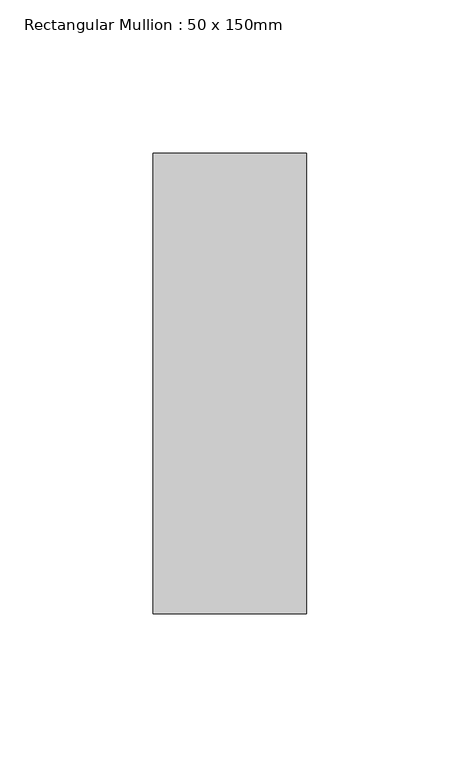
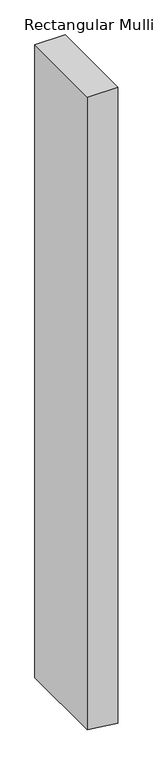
"""IFC4 building model written with IfcOpenShell, lengths in millimetres: member geometry, Rectangular Mullion : 50 x 150mm."""

from ifc_helpers import new_model, si_unit, frame, origin, place, context, project, spatial, polyline, outline, extrude, source, transform, mapped, element, save


def rectangular_mullion_50_x_150mm_40952dae(model_context):
    return source(origin(), model_context, "Body", "SweptSolid", [
        extrude(outline(polyline([(0.0, 25.0), (0.0, -25.0), (-1105.2578211, -25.0), (-1108.7379804, 5.6423937), (-1110.9364885, 25.0), (0.0, 25.0)])), frame((0.0, -75.0, 0.0), z_axis=(0.0, 1.0, 0.0), x_axis=(0.0, 0.0, 1.0)), (0.0, 0.0, 1.0), 150.0),
    ])


if __name__ == "__main__":
    model = new_model("IFC4")
    model_context = context("Model", 3, world=origin())
    ifc_project = project(units=[si_unit("LENGTHUNIT", "METRE", prefix="MILLI")], contexts=[model_context])
    site = spatial("IfcSite", under=ifc_project)
    building = spatial("IfcBuilding", under=site)
    placement = place(None, origin())
    rectangular_mullion_50_x_150mm_shape = rectangular_mullion_50_x_150mm_40952dae(model_context)
    element("IfcMember", 1, ObjectType="Rectangular Mullion : 50 x 150mm", at=placement, inside=building, context=model_context, shape_type="MappedRepresentation", body=[
        mapped(rectangular_mullion_50_x_150mm_shape, transform((0.0, 0.0, 0.0), x_axis=(1.0, 0.0, 0.0), y_axis=(0.0, 1.0, 0.0), z_axis=(0.0, 0.0, 1.0))),
    ])
    save(model, "model.ifc")
